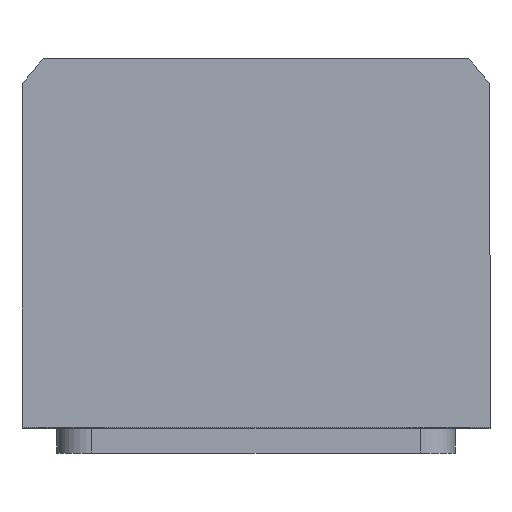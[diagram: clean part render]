
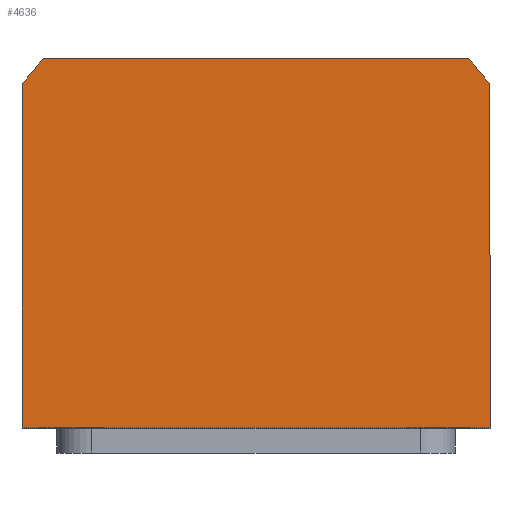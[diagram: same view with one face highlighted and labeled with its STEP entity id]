
A CAD part, top view. The second image highlights one B-rep face of the part: STEP entity #4636.
In plain terms, the highlighted planar face has unit normal (0, 0, 1).
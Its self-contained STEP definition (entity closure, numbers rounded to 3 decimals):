
#872 = VERTEX_POINT ( 'NONE', #13687 ) ;
#1185 = CIRCLE ( 'NONE', #15187, 58.5 ) ;
#1227 = VECTOR ( 'NONE', #11323, 1000. ) ;
#1273 = EDGE_LOOP ( 'NONE', ( #1648, #11608, #9007, #11824, #13470, #13454 ) ) ;
#1648 = ORIENTED_EDGE ( 'NONE', *, *, #2333, .T. ) ;
#1974 = CARTESIAN_POINT ( 'NONE',  ( -47., -34., 75. ) ) ;
#2037 = DIRECTION ( 'NONE',  ( 0., -1., 0. ) ) ;
#2046 = DIRECTION ( 'NONE',  ( 0., 0., 1. ) ) ;
#2172 = EDGE_CURVE ( 'NONE', #6725, #12500, #14052, .T. ) ;
#2333 = EDGE_CURVE ( 'NONE', #9882, #6725, #14956, .T. ) ;
#2553 = CIRCLE ( 'NONE', #11035, 58.5 ) ;
#2993 = EDGE_CURVE ( 'NONE', #872, #3363, #12949, .T. ) ;
#3363 = VERTEX_POINT ( 'NONE', #7784 ) ;
#3761 = VECTOR ( 'NONE', #14922, 1000. ) ;
#4636 = ADVANCED_FACE ( 'NONE', ( #5386 ), #14931, .T. ) ;
#4684 = CARTESIAN_POINT ( 'NONE',  ( 47., 34.832, 75. ) ) ;
#5386 = FACE_OUTER_BOUND ( 'NONE', #1273, .T. ) ;
#6725 = VERTEX_POINT ( 'NONE', #7728 ) ;
#7398 = VECTOR ( 'NONE', #2037, 1000. ) ;
#7728 = CARTESIAN_POINT ( 'NONE',  ( 47., -34., 75. ) ) ;
#7738 = EDGE_CURVE ( 'NONE', #12500, #872, #1185, .T. ) ;
#7784 = CARTESIAN_POINT ( 'NONE',  ( -42.688, 40., 75. ) ) ;
#7953 = CARTESIAN_POINT ( 'NONE',  ( 0., 0., 75. ) ) ;
#8250 = EDGE_CURVE ( 'NONE', #13668, #9882, #11620, .T. ) ;
#8814 = DIRECTION ( 'NONE',  ( 1., 0., 0. ) ) ;
#8993 = CARTESIAN_POINT ( 'NONE',  ( 0., 0., 75. ) ) ;
#9007 = ORIENTED_EDGE ( 'NONE', *, *, #7738, .T. ) ;
#9580 = CARTESIAN_POINT ( 'NONE',  ( -42.688, 40., 75. ) ) ;
#9882 = VERTEX_POINT ( 'NONE', #10778 ) ;
#10157 = CARTESIAN_POINT ( 'NONE',  ( 0., 0., 75. ) ) ;
#10187 = CARTESIAN_POINT ( 'NONE',  ( 47., 34.832, 75. ) ) ;
#10213 = DIRECTION ( 'NONE',  ( 1., 0., 0. ) ) ;
#10778 = CARTESIAN_POINT ( 'NONE',  ( -47., -34., 75. ) ) ;
#11035 = AXIS2_PLACEMENT_3D ( 'NONE', #7953, #13768, #13715 ) ;
#11127 = CARTESIAN_POINT ( 'NONE',  ( -47., 34.832, 75. ) ) ;
#11323 = DIRECTION ( 'NONE',  ( 0., 1., 0. ) ) ;
#11608 = ORIENTED_EDGE ( 'NONE', *, *, #2172, .T. ) ;
#11620 = LINE ( 'NONE', #1974, #7398 ) ;
#11824 = ORIENTED_EDGE ( 'NONE', *, *, #2993, .T. ) ;
#12038 = VECTOR ( 'NONE', #14302, 1000. ) ;
#12500 = VERTEX_POINT ( 'NONE', #4684 ) ;
#12949 = LINE ( 'NONE', #9580, #12038 ) ;
#13298 = AXIS2_PLACEMENT_3D ( 'NONE', #10157, #2046, #10213 ) ;
#13454 = ORIENTED_EDGE ( 'NONE', *, *, #8250, .T. ) ;
#13470 = ORIENTED_EDGE ( 'NONE', *, *, #13934, .T. ) ;
#13668 = VERTEX_POINT ( 'NONE', #11127 ) ;
#13687 = CARTESIAN_POINT ( 'NONE',  ( 42.688, 40., 75. ) ) ;
#13715 = DIRECTION ( 'NONE',  ( 1., 0., 0. ) ) ;
#13737 = CARTESIAN_POINT ( 'NONE',  ( 47., -34., 75. ) ) ;
#13768 = DIRECTION ( 'NONE',  ( 0., 0., 1. ) ) ;
#13934 = EDGE_CURVE ( 'NONE', #3363, #13668, #2553, .T. ) ;
#14052 = LINE ( 'NONE', #10187, #1227 ) ;
#14302 = DIRECTION ( 'NONE',  ( -1., 0., 0. ) ) ;
#14749 = DIRECTION ( 'NONE',  ( 0., 0., 1. ) ) ;
#14922 = DIRECTION ( 'NONE',  ( 1., 0., 0. ) ) ;
#14931 = PLANE ( 'NONE',  #13298 ) ;
#14956 = LINE ( 'NONE', #13737, #3761 ) ;
#15187 = AXIS2_PLACEMENT_3D ( 'NONE', #8993, #14749, #8814 ) ;
